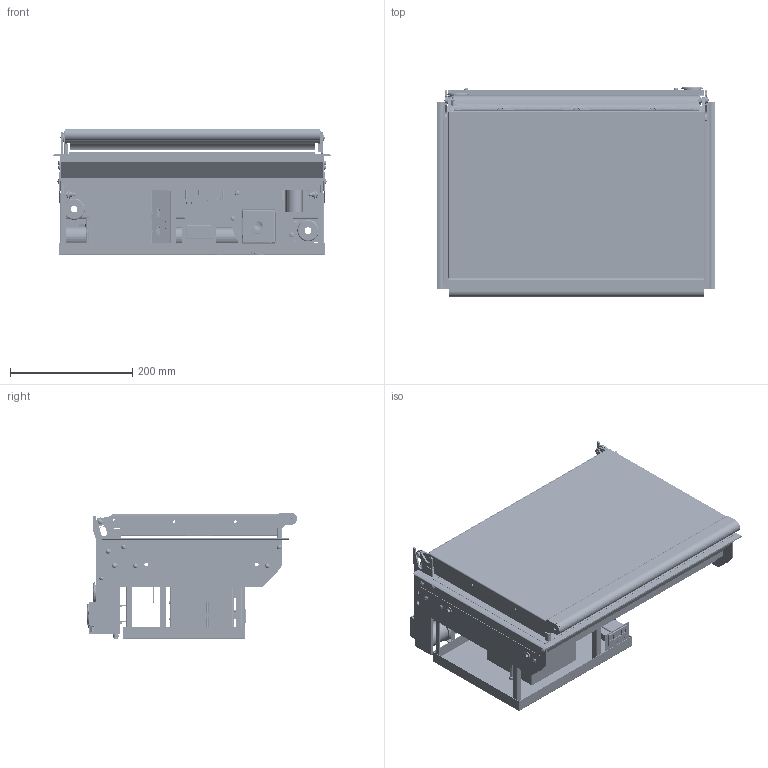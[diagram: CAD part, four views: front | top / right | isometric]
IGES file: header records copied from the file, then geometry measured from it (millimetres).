
Start section: SolidWorks IGES file using analytic representation for surfaces
Global section: file name: Y:\YLEISET\LYHYTAIKAISET SIIRROT\Jussi\Oravan talvivarasto\iges\XC Duo.IGS; native system: SolidWorks 2012; preprocessor: SolidWorks 2012; author: janne; date: 141020.112128; units: millimetre
Bounding box: 456 x 343.72 x 207.81 mm (x, y, z)
Surface area: 2579707.9 mm2 (no closed solid volume)
Topology: 0 solids, 0 shells, 3704 faces, 49174 edges, 49118 vertices
Faces by surface type: bspline 2123, revolution 1581
